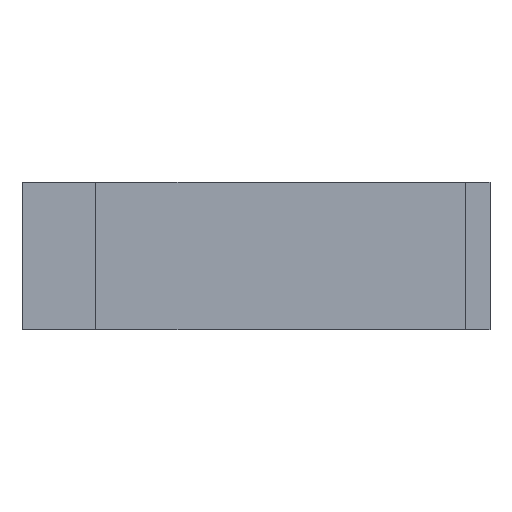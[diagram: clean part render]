
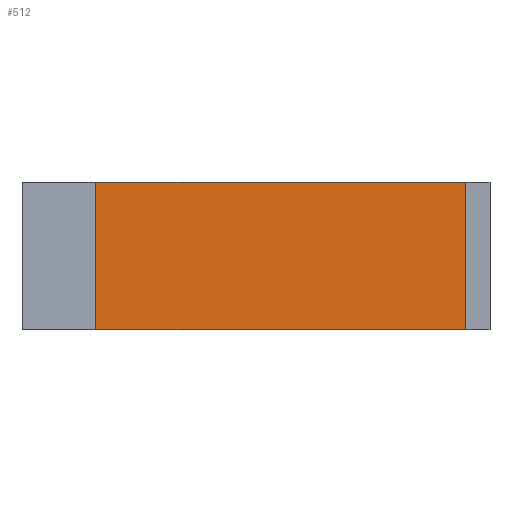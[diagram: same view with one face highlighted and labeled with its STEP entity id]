
A CAD part, top view. The second image highlights one B-rep face of the part: STEP entity #512.
In plain terms, the highlighted planar face has unit normal (0, 0, 1).
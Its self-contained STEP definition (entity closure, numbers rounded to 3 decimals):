
#17 = VERTEX_POINT ( 'NONE', #137 ) ;
#26 = CARTESIAN_POINT ( 'NONE',  ( 2., 0., 2.5 ) ) ;
#63 = EDGE_CURVE ( 'NONE', #17, #446, #388, .T. ) ;
#66 = DIRECTION ( 'NONE',  ( 1., 0., 0. ) ) ;
#71 = VECTOR ( 'NONE', #194, 1000. ) ;
#118 = CARTESIAN_POINT ( 'NONE',  ( 17., 6., 2.5 ) ) ;
#137 = CARTESIAN_POINT ( 'NONE',  ( 17., -6., 2.5 ) ) ;
#157 = EDGE_LOOP ( 'NONE', ( #340, #794, #411, #863 ) ) ;
#161 = DIRECTION ( 'NONE',  ( 0., -1., 0. ) ) ;
#176 = EDGE_CURVE ( 'NONE', #613, #482, #375, .T. ) ;
#191 = CARTESIAN_POINT ( 'NONE',  ( -13., -6., 2.5 ) ) ;
#194 = DIRECTION ( 'NONE',  ( -1., 0., 0. ) ) ;
#249 = EDGE_CURVE ( 'NONE', #482, #17, #264, .T. ) ;
#264 = LINE ( 'NONE', #191, #595 ) ;
#278 = CARTESIAN_POINT ( 'NONE',  ( -13., -6., 2.5 ) ) ;
#325 = CARTESIAN_POINT ( 'NONE',  ( 17., 6., 2.5 ) ) ;
#340 = ORIENTED_EDGE ( 'NONE', *, *, #640, .T. ) ;
#349 = VECTOR ( 'NONE', #435, 1000. ) ;
#375 = LINE ( 'NONE', #786, #814 ) ;
#388 = LINE ( 'NONE', #650, #349 ) ;
#411 = ORIENTED_EDGE ( 'NONE', *, *, #249, .T. ) ;
#435 = DIRECTION ( 'NONE',  ( 0., 1., 0. ) ) ;
#446 = VERTEX_POINT ( 'NONE', #118 ) ;
#481 = FACE_OUTER_BOUND ( 'NONE', #157, .T. ) ;
#482 = VERTEX_POINT ( 'NONE', #278 ) ;
#512 = ADVANCED_FACE ( 'NONE', ( #481 ), #608, .T. ) ;
#595 = VECTOR ( 'NONE', #66, 1000. ) ;
#608 = PLANE ( 'NONE',  #628 ) ;
#613 = VERTEX_POINT ( 'NONE', #851 ) ;
#628 = AXIS2_PLACEMENT_3D ( 'NONE', #26, #776, #684 ) ;
#640 = EDGE_CURVE ( 'NONE', #446, #613, #672, .T. ) ;
#650 = CARTESIAN_POINT ( 'NONE',  ( 17., -6., 2.5 ) ) ;
#672 = LINE ( 'NONE', #325, #71 ) ;
#684 = DIRECTION ( 'NONE',  ( 1., 0., 0. ) ) ;
#776 = DIRECTION ( 'NONE',  ( 0., 0., 1. ) ) ;
#786 = CARTESIAN_POINT ( 'NONE',  ( -13., 6., 2.5 ) ) ;
#794 = ORIENTED_EDGE ( 'NONE', *, *, #176, .T. ) ;
#814 = VECTOR ( 'NONE', #161, 1000. ) ;
#851 = CARTESIAN_POINT ( 'NONE',  ( -13., 6., 2.5 ) ) ;
#863 = ORIENTED_EDGE ( 'NONE', *, *, #63, .T. ) ;
